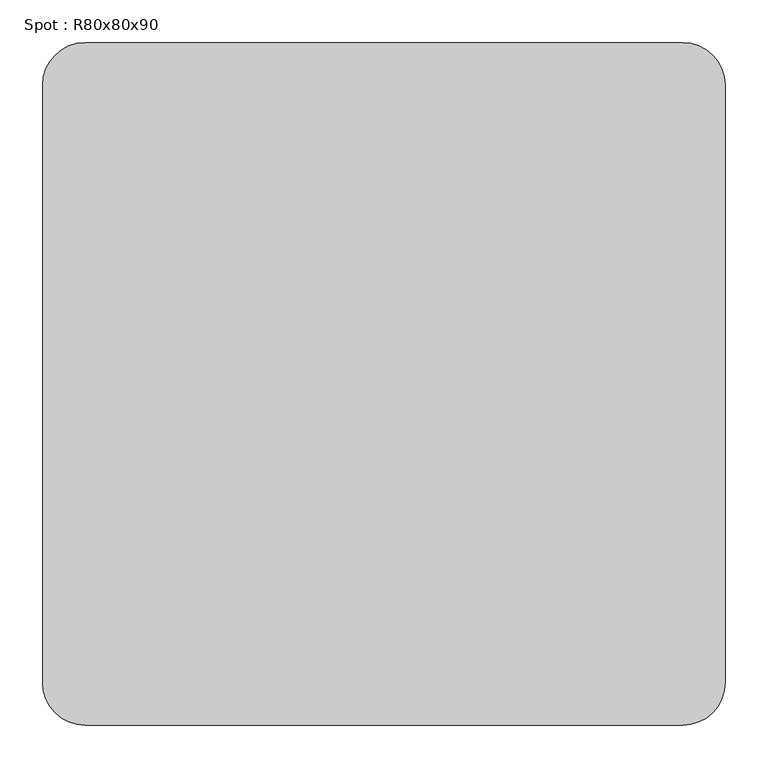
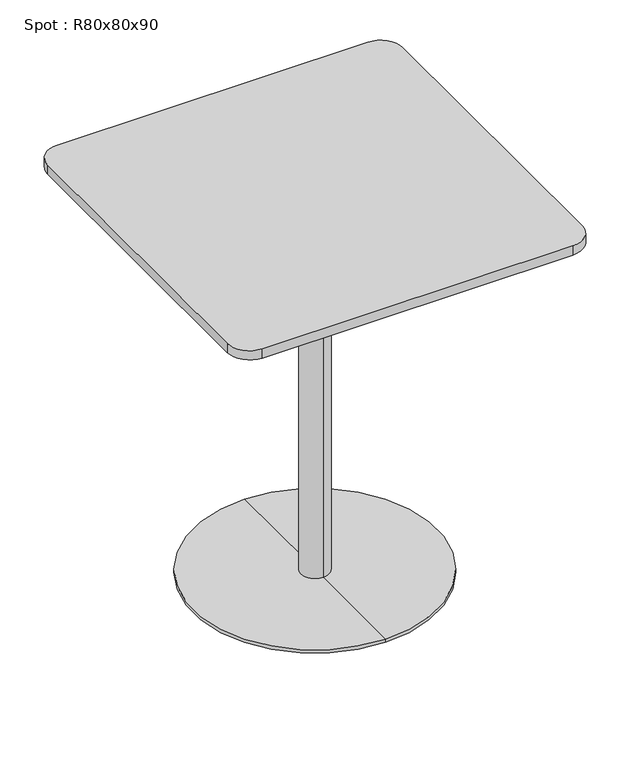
"""IFC4 building model written with IfcOpenShell, lengths in millimetres: furniture geometry, Spot : R80x80x90."""

from ifc_helpers import new_model, si_unit, point, frame, frame_2d, origin, place, context, project, spatial, polyline, circle_curve, trimmed, segment, composite_curve, outline, extrude, source, transform, mapped, element, save
from ifc_brep_helpers import plane_surface, cylinder_surface, revolved_surface, advanced_brep


def spot_r80x80x90_a1dbbd4d(model_context):
    return source(origin(), model_context, "Body", "SolidModel", [
        extrude(outline(composite_curve([segment(trimmed(circle_curve(frame_2d((350.0, 350.0)), 50.0), [point((350.0, 400.0))], [point((400.0, 350.0))], False, "CARTESIAN"), True, "CONTINUOUS"), segment(polyline([(400.0, 350.0), (400.0, -350.0)]), True, "CONTINUOUS"), segment(trimmed(circle_curve(frame_2d((350.0, -350.0)), 50.0), [point((400.0, -350.0))], [point((350.0, -400.0))], False, "CARTESIAN"), True, "CONTINUOUS"), segment(polyline([(350.0, -400.0), (-350.0, -400.0)]), True, "CONTINUOUS"), segment(trimmed(circle_curve(frame_2d((-350.0, -350.0)), 50.0), [point((-350.0, -400.0))], [point((-400.0, -350.0))], False, "CARTESIAN"), True, "CONTINUOUS"), segment(polyline([(-400.0, -350.0), (-400.0, 350.0)]), True, "CONTINUOUS"), segment(trimmed(circle_curve(frame_2d((-350.0, 350.0)), 50.0), [point((-400.0, 350.0))], [point((-350.0, 400.0))], False, "CARTESIAN"), True, "CONTINUOUS"), segment(polyline([(-350.0, 400.0), (350.0, 400.0)]), True, "CONTINUOUS")], self_intersect=False)), frame((0.0, 0.0, 878.0), z_axis=(0.0, 0.0, 1.0), x_axis=(1.0, 0.0, 0.0)), (0.0, 0.0, 1.0), 22.0),
        advanced_brep(
        [(0.0, 32.0, 10.0), (0.0, -32.0, 10.0), (0.0, -32.0, 847.406916), (0.0, 32.0, 847.406916), (0.0, 275.0, 10.0), (0.0, -275.0, 10.0), (0.0, 275.0, 2.0), (0.0, -275.0, 2.0), (0.0, 0.0, 2.0), (0.0, 150.0, 878.0), (0.0, -150.0, 878.0), (0.0, 0.0, 878.0), (0.0, 150.0, 866.7213673), (0.0, -150.0, 866.7213673)],
        [
            (0, 1, circle_curve(frame((0.0, 0.0, 10.0), z_axis=(0.0, 0.0, 1.0), x_axis=(0.0, -1.0, 0.0)), 32.0)),
            (1, 2),
            (2, 3, circle_curve(frame((0.0, 0.0, 847.406916), z_axis=(0.0, 0.0, -1.0), x_axis=(0.0, -1.0, 0.0)), 32.0)),
            (3, 0),
            (1, 0, circle_curve(frame((0.0, 0.0, 10.0), z_axis=(0.0, 0.0, 1.0), x_axis=(0.0, -1.0, 0.0)), 32.0)),
            (3, 2, circle_curve(frame((0.0, 0.0, 847.406916), z_axis=(0.0, 0.0, -1.0), x_axis=(0.0, -1.0, 0.0)), 32.0)),
            (4, 5, circle_curve(frame((0.0, 0.0, 10.0), z_axis=(0.0, 0.0, 1.0), x_axis=(0.0, -1.0, 0.0)), 275.0)),
            (5, 1),
            (0, 4),
            (5, 4, circle_curve(frame((0.0, 0.0, 10.0), z_axis=(0.0, 0.0, 1.0), x_axis=(0.0, -1.0, 0.0)), 275.0)),
            (6, 7, circle_curve(frame((0.0, 0.0, 2.0), z_axis=(0.0, 0.0, 1.0), x_axis=(0.0, -1.0, 0.0)), 275.0)),
            (7, 5),
            (4, 6),
            (7, 6, circle_curve(frame((0.0, 0.0, 2.0), z_axis=(0.0, 0.0, 1.0), x_axis=(0.0, -1.0, 0.0)), 275.0)),
            (8, 7),
            (6, 8),
            (9, 10, circle_curve(frame((0.0, 0.0, 878.0), z_axis=(0.0, 0.0, 1.0), x_axis=(0.0, -1.0, 0.0)), 150.0)),
            (10, 11),
            (11, 9),
            (10, 9, circle_curve(frame((0.0, 0.0, 878.0), z_axis=(0.0, 0.0, 1.0), x_axis=(0.0, -1.0, 0.0)), 150.0)),
            (12, 13, circle_curve(frame((0.0, 0.0, 866.7213673), z_axis=(0.0, 0.0, 1.0), x_axis=(0.0, -1.0, 0.0)), 150.0)),
            (13, 10),
            (9, 12),
            (13, 12, circle_curve(frame((0.0, 0.0, 866.7213673), z_axis=(0.0, 0.0, 1.0), x_axis=(0.0, -1.0, 0.0)), 150.0)),
            (2, 13),
            (12, 3),
        ],
        [
            cylinder_surface(frame((0.0, 0.0, 1240.0), z_axis=(0.0, 0.0, -1.0), x_axis=(0.0, -1.0, 0.0)), 32.0),
            plane_surface(frame((0.0, 0.0, 10.0), z_axis=(0.0, 0.0, 1.0), x_axis=(0.0, -1.0, 0.0))),
            cylinder_surface(frame((0.0, 0.0, 1240.0), z_axis=(0.0, 0.0, -1.0), x_axis=(0.0, -1.0, 0.0)), 275.0),
            plane_surface(frame((0.0, 0.0, 2.0), z_axis=(0.0, 0.0, -1.0), x_axis=(0.0, -1.0, 0.0))),
            plane_surface(frame((0.0, 0.0, 878.0), z_axis=(0.0, 0.0, 1.0), x_axis=(0.0, -1.0, 0.0))),
            cylinder_surface(frame((0.0, 0.0, 1240.0), z_axis=(0.0, 0.0, -1.0), x_axis=(0.0, -1.0, 0.0)), 150.0),
            revolved_surface(polyline([(0.0, -150.0, 866.7213673), (0.0, -32.0, 847.406916)]), (0.0, 0.0, 1240.0), (0.0, 0.0, -1.0)),
        ],
        [
            (0, [[1, 2, 3, 4]]),
            (0, [[5, -4, 6, -2]]),
            (1, [[7, 8, -1, 9]]),
            (1, [[10, -9, -5, -8]]),
            (2, [[11, 12, -7, 13]]),
            (2, [[14, -13, -10, -12]]),
            (3, [[15, -11, 16]]),
            (3, [[-16, -14, -15]]),
            (4, [[17, 18, 19]]),
            (4, [[20, -19, -18]]),
            (5, [[21, 22, -17, 23]]),
            (5, [[24, -23, -20, -22]]),
            (6, [[-3, 25, -21, 26]]),
            (6, [[-6, -26, -24, -25]]),
        ],
    ),
    ])


if __name__ == "__main__":
    model = new_model("IFC4")
    model_context = context("Model", 3, world=origin())
    ifc_project = project(units=[si_unit("LENGTHUNIT", "METRE", prefix="MILLI")], contexts=[model_context])
    site = spatial("IfcSite", under=ifc_project)
    building = spatial("IfcBuilding", under=site)
    placement = place(None, origin())
    spot_r80x80x90_shape = spot_r80x80x90_a1dbbd4d(model_context)
    element("IfcFurniture", 1, ObjectType="Spot : R80x80x90", at=placement, inside=building, context=model_context, shape_type="MappedRepresentation", body=[
        mapped(spot_r80x80x90_shape, transform((0.0, 0.0, 0.0), x_axis=(1.0, 0.0, 0.0), y_axis=(0.0, 1.0, 0.0), z_axis=(0.0, 0.0, 1.0))),
    ])
    save(model, "model.ifc")
